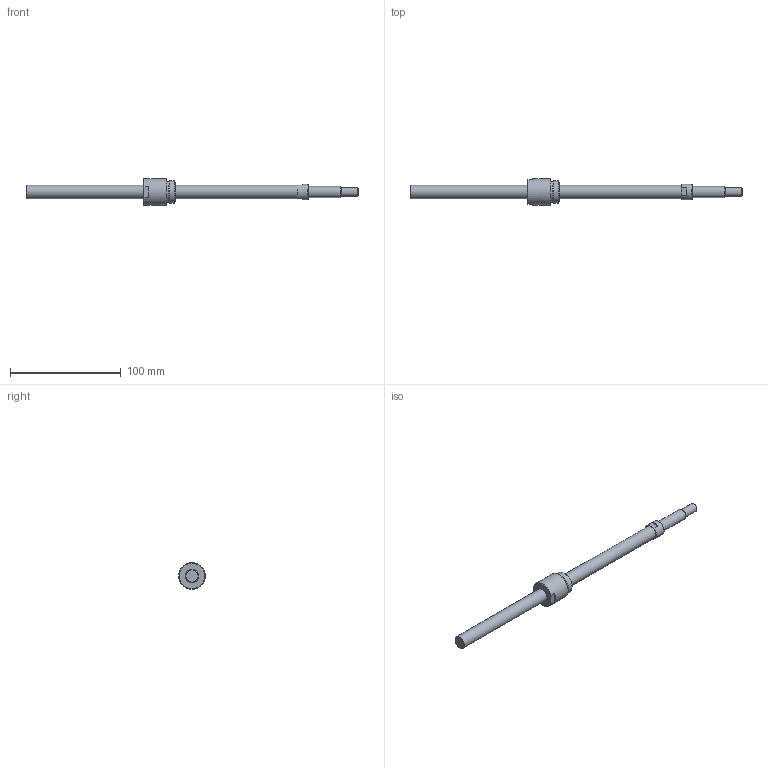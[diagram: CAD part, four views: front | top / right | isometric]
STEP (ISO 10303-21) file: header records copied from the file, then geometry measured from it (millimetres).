
FILE_DESCRIPTION(/* description */ ('STEP AP214'),/* implementation_level */ '2;1');
FILE_NAME(/* name */ 'NSG1204-241R300C5A0X(106)',/* time_stamp */ '2026-08-20T15:50:40+02:00',/* author */ ('License CC BY-ND 4.0'),/* organization */ ('CADENAS'),/* preprocessor_version */ 'ST-DEVELOPER v20',/* originating_system */ 'PARTsolutions',/* authorisation */ ' ');
FILE_SCHEMA (('AUTOMOTIVE_DESIGN {1 0 10303 214 3 1 1}'));
Length unit declared in the file: millimetre
Products named in the file (3): NSG1204-241R300C5A0X(106); NSG1204-241R300C3A_shaft; NSG1204_nut
Assembly tree (2 placements, depth 2):
  NSG1204-241R300C5A0X(106)
    NSG1204-241R300C3A_shaft
    NSG1204_nut
Bounding box: 300 x 24 x 24 mm (x, y, z)
Volume: 40818.5 mm3; surface area: 15106.8 mm2
Topology: 2 solids, 2 shells, 35 faces, 72 edges, 44 vertices
Faces by surface type: plane 17, cone 9, cylinder 8, torus 1
Full cylindrical faces by diameter (mm): 8 x1, 10 x1, 12 x2, 14 x1, 18.4 x1, 20 x1, 24 x1
Entity records: 907 total; most frequent: DIRECTION 158, CARTESIAN_POINT 146, ORIENTED_EDGE 108, AXIS2_PLACEMENT_3D 70, EDGE_LOOP 56, FACE_BOUND 56, EDGE_CURVE 54, VERTEX_POINT 42
